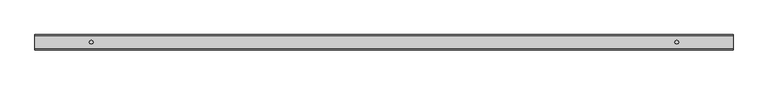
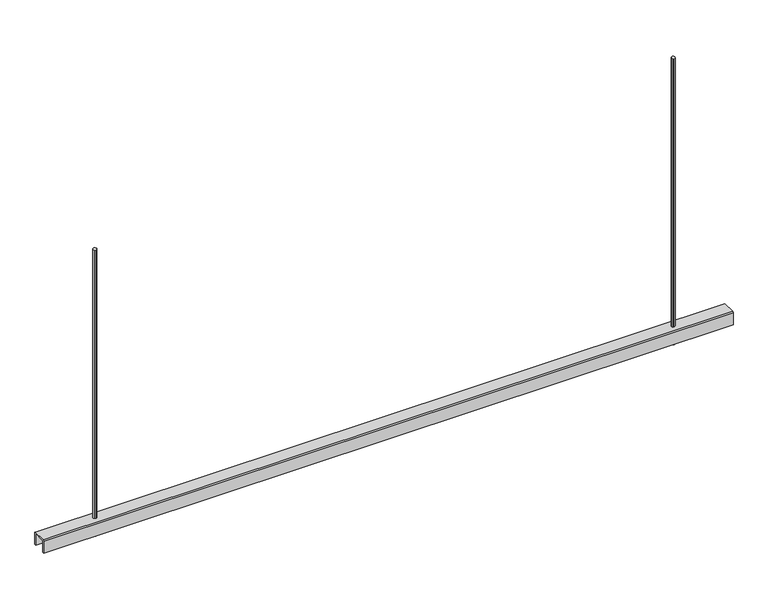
"""IFC4 building model written with IfcOpenShell, lengths in millimetres: proxy geometry, Beared-Hanger : BearedHanger."""

from ifc_helpers import new_model, si_unit, frame, origin, place, context, project, spatial, polyline, outline, extrude, source, transform, mapped, element, save


def mechanical_equipment_785bb804(model_context):
    return source(origin(), model_context, "Body", "SweptSolid", [
        extrude(outline(polyline([(755.9585049, -17.3962402), (755.9585049, 16.7883301), (785.7753995, 16.7883301), (785.7753995, -17.3962402), (755.9585049, -17.3962402)])), frame((0.0, 0.0, -792.5995399), z_axis=(0.0, 0.0, 1.0), x_axis=(1.0, 0.0, 0.0)), (0.0, 0.0, 1.0), 10.0),
        extrude(outline(polyline([(770.8669522, 5.0), (774.4021084, 3.5351562), (775.8675625, 0.0), (774.4021084, -3.5351563), (770.8669522, -5.0), (767.3317959, -3.5351563), (765.8669522, 0.0), (767.3317959, 3.5351562), (770.8669522, 5.0)])), frame((0.0, 0.0, -806.1841346), z_axis=(0.0, 0.0, 1.0), x_axis=(1.0, 0.0, 0.0)), (0.0, 0.0, 1.0), 806.1841346),
        extrude(outline(polyline([(-755.9585049, 16.7883301), (-755.9585049, -17.3962402), (-785.7753995, -17.3962402), (-785.7753995, 16.7883301), (-755.9585049, 16.7883301)])), frame((0.0, 0.0, -792.5995399), z_axis=(0.0, 0.0, 1.0), x_axis=(1.0, 0.0, 0.0)), (0.0, 0.0, 1.0), 10.0),
        extrude(outline(polyline([(-770.8669522, 5.0), (-767.3317959, 3.5351563), (-765.8669522, 0.0), (-767.3317959, -3.5351562), (-770.8669522, -5.0), (-774.4021084, -3.5351562), (-775.8675625, 0.0), (-774.4021084, 3.5351563), (-770.8669522, 5.0)])), frame((0.0, 0.0, -806.1841346), z_axis=(0.0, 0.0, 1.0), x_axis=(1.0, 0.0, 0.0)), (0.0, 0.0, 1.0), 806.1841346),
        extrude(outline(polyline([(-17.8259277, -756.1841346), (17.1740723, -756.1841346), (19.6740723, -758.6838295), (19.6740723, -792.5995399), (16.7883301, -792.5995399), (16.7883301, -759.1840126), (-17.3962402, -759.1840126), (-17.3962402, -792.5995399), (-20.3259277, -792.5995399), (-20.3259277, -758.6838295), (-17.8259277, -756.1841346)])), frame((-919.0589905, 0.0, 0.0), z_axis=(1.0, 0.0, 0.0), x_axis=(0.0, 1.0, 0.0)), (0.0, 0.0, 1.0), 1838.117981),
    ])


if __name__ == "__main__":
    model = new_model("IFC4")
    model_context = context("Model", 3, world=origin())
    ifc_project = project(units=[si_unit("LENGTHUNIT", "METRE", prefix="MILLI")], contexts=[model_context])
    site = spatial("IfcSite", under=ifc_project)
    building = spatial("IfcBuilding", under=site)
    placement = place(None, origin())
    mechanical_equipment_shape = mechanical_equipment_785bb804(model_context)
    element("IfcBuildingElementProxy", 1, Name="Beared-Hanger : BearedHanger", ObjectType="Beared-Hanger : BearedHanger", at=placement, inside=building, context=model_context, shape_type="MappedRepresentation", body=[
        mapped(mechanical_equipment_shape, transform((0.0, 0.0, 0.0), x_axis=(1.0, 0.0, 0.0), y_axis=(0.0, 1.0, 0.0), z_axis=(0.0, 0.0, 1.0))),
    ])
    save(model, "model.ifc")
